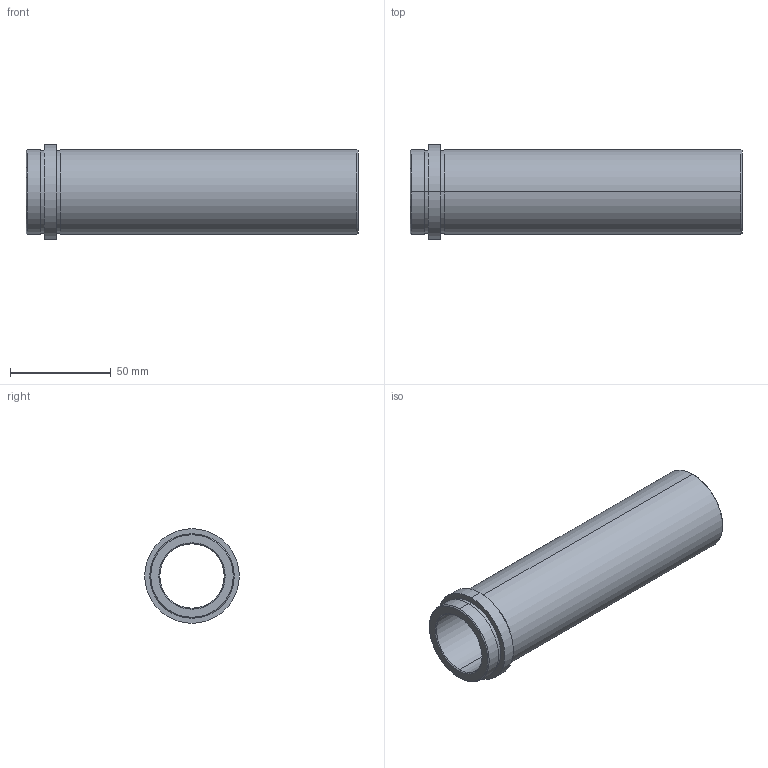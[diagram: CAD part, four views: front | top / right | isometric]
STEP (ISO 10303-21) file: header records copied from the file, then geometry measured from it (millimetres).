
FILE_DESCRIPTION( ( 'STEP AP203' ), '1' );
FILE_NAME( 'C:/Projects/D21 - 32x156.step', '2002-12-31T22:52:59', ( ' ' ), ( ' ' ), 'XStep 1.0', ' ', ' ' );
FILE_SCHEMA( ( 'CONFIG_CONTROL_DESIGN' ) );
Length unit declared in the file: metre
Products named in the file (1): 1
Bounding box: 165 x 47 x 47 mm (x, y, z)
Volume: 97675.3 mm3; surface area: 40426.5 mm2
Topology: 1 solids, 1 shells, 26 faces, 52 edges, 32 vertices
Faces by surface type: revolution 20, bspline 6
Entity records: 773 total; most frequent: CARTESIAN_POINT 169, DIRECTION 106, ORIENTED_EDGE 104, EDGE_CURVE 52, AXIS2_PLACEMENT_3D 33, EDGE_LOOP 32, VERTEX_POINT 32, CIRCLE 32
